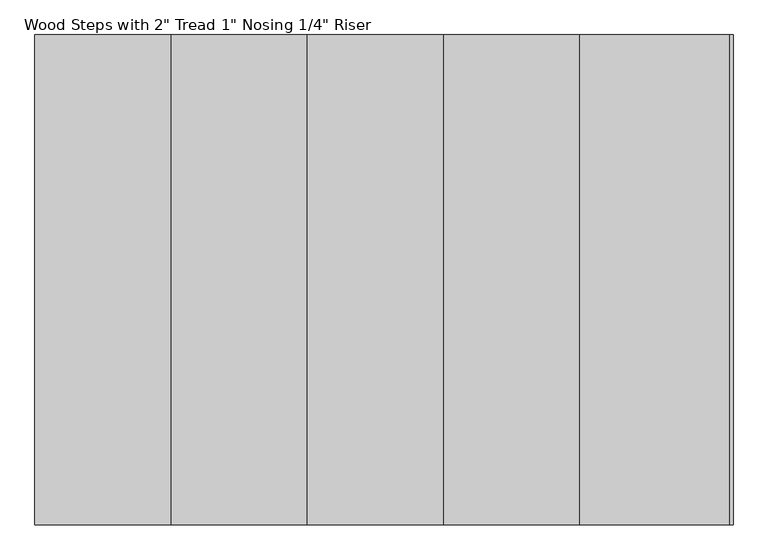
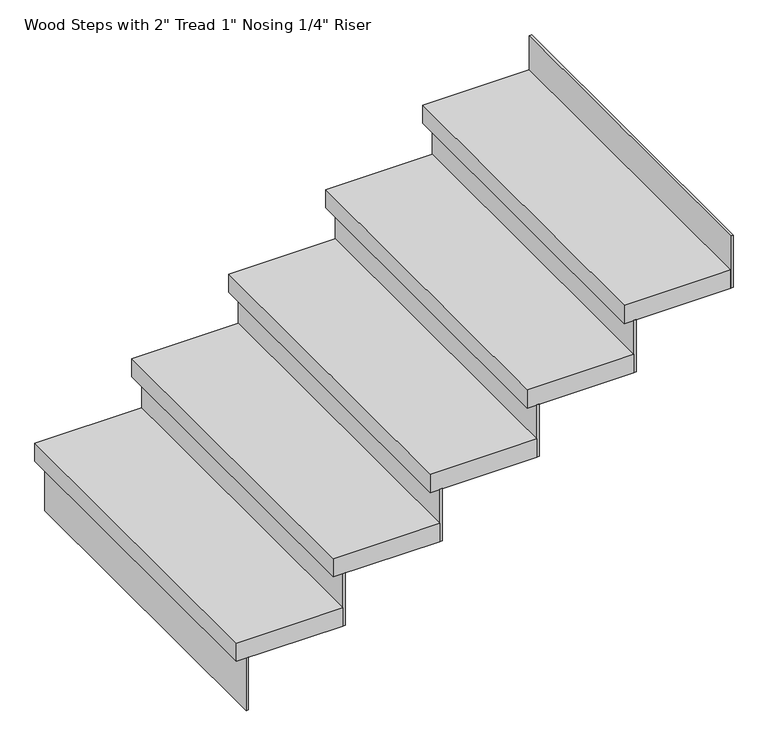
"""IFC4 building model written with IfcOpenShell, lengths in millimetres: stair flight geometry."""

from ifc_helpers import new_model, si_unit, frame, origin, place, context, project, spatial, polyline, outline, extrude, source, transform, mapped, element, save


def stair_flight_e9081b82(model_context):
    return source(origin(), model_context, "Body", "SweptSolid", [
        extrude(outline(polyline([(-31217.12137, 23592.4177722), (-31223.47137, 23592.4177722), (-31223.47137, 24506.8177722), (-31217.12137, 24506.8177722), (-31217.12137, 23592.4177722)])), frame((0.0, 0.0, 2126.3428571), z_axis=(0.0, 0.0, 1.0), x_axis=(1.0, 0.0, 0.0)), (0.0, 0.0, 1.0), 145.1428571),
        extrude(outline(polyline([(-30969.47137, 24506.8177722), (-30969.47137, 23592.4177722), (-31248.87137, 23592.4177722), (-31248.87137, 24506.8177722), (-30969.47137, 24506.8177722)])), frame((0.0, 0.0, 2271.4857143), z_axis=(0.0, 0.0, 1.0), x_axis=(1.0, 0.0, 0.0)), (0.0, 0.0, 1.0), 50.8),
        extrude(outline(polyline([(-30963.12137, 23592.4177722), (-30969.47137, 23592.4177722), (-30969.47137, 24506.8177722), (-30963.12137, 24506.8177722), (-30963.12137, 23592.4177722)])), frame((0.0, 0.0, 2271.4857143), z_axis=(0.0, 0.0, 1.0), x_axis=(1.0, 0.0, 0.0)), (0.0, 0.0, 1.0), 145.1428571),
        extrude(outline(polyline([(-30715.47137, 24506.8177722), (-30715.47137, 23592.4177722), (-30994.87137, 23592.4177722), (-30994.87137, 24506.8177722), (-30715.47137, 24506.8177722)])), frame((0.0, 0.0, 2416.6285714), z_axis=(0.0, 0.0, 1.0), x_axis=(1.0, 0.0, 0.0)), (0.0, 0.0, 1.0), 50.8),
        extrude(outline(polyline([(-30709.12137, 23592.4177722), (-30715.47137, 23592.4177722), (-30715.47137, 24506.8177722), (-30709.12137, 24506.8177722), (-30709.12137, 23592.4177722)])), frame((0.0, 0.0, 2416.6285714), z_axis=(0.0, 0.0, 1.0), x_axis=(1.0, 0.0, 0.0)), (0.0, 0.0, 1.0), 145.1428571),
        extrude(outline(polyline([(-30461.47137, 24506.8177722), (-30461.47137, 23592.4177722), (-30740.87137, 23592.4177722), (-30740.87137, 24506.8177722), (-30461.47137, 24506.8177722)])), frame((0.0, 0.0, 2561.7714286), z_axis=(0.0, 0.0, 1.0), x_axis=(1.0, 0.0, 0.0)), (0.0, 0.0, 1.0), 50.8),
        extrude(outline(polyline([(-30455.12137, 23592.4177722), (-30461.47137, 23592.4177722), (-30461.47137, 24506.8177722), (-30455.12137, 24506.8177722), (-30455.12137, 23592.4177722)])), frame((0.0, 0.0, 2561.7714286), z_axis=(0.0, 0.0, 1.0), x_axis=(1.0, 0.0, 0.0)), (0.0, 0.0, 1.0), 145.1428571),
        extrude(outline(polyline([(-30207.47137, 24506.8177722), (-30207.47137, 23592.4177722), (-30486.87137, 23592.4177722), (-30486.87137, 24506.8177722), (-30207.47137, 24506.8177722)])), frame((0.0, 0.0, 2706.9142857), z_axis=(0.0, 0.0, 1.0), x_axis=(1.0, 0.0, 0.0)), (0.0, 0.0, 1.0), 50.8),
        extrude(outline(polyline([(-30201.12137, 23592.4177722), (-30207.47137, 23592.4177722), (-30207.47137, 24506.8177722), (-30201.12137, 24506.8177722), (-30201.12137, 23592.4177722)])), frame((0.0, 0.0, 2706.9142857), z_axis=(0.0, 0.0, 1.0), x_axis=(1.0, 0.0, 0.0)), (0.0, 0.0, 1.0), 145.1428571),
        extrude(outline(polyline([(-29947.12137, 23592.4177722), (-29953.47137, 23592.4177722), (-29953.47137, 24506.8177722), (-29947.12137, 24506.8177722), (-29947.12137, 23592.4177722)])), frame((0.0, 0.0, 2852.0571429), z_axis=(0.0, 0.0, 1.0), x_axis=(1.0, 0.0, 0.0)), (0.0, 0.0, 1.0), 145.1428571),
        extrude(outline(polyline([(-29953.47137, 24506.8177722), (-29953.47137, 23592.4177722), (-30232.87137, 23592.4177722), (-30232.87137, 24506.8177722), (-29953.47137, 24506.8177722)])), frame((0.0, 0.0, 2852.0571429), z_axis=(0.0, 0.0, 1.0), x_axis=(1.0, 0.0, 0.0)), (0.0, 0.0, 1.0), 50.8),
    ])


if __name__ == "__main__":
    model = new_model("IFC4")
    model_context = context("Model", 3, world=origin())
    ifc_project = project(units=[si_unit("LENGTHUNIT", "METRE", prefix="MILLI")], contexts=[model_context])
    site = spatial("IfcSite", under=ifc_project)
    building = spatial("IfcBuilding", under=site)
    placement = place(None, origin())
    stair_flight_shape = stair_flight_e9081b82(model_context)
    element("IfcStairFlight", 1, ObjectType="Wood Steps with 2\" Tread 1\" Nosing 1/4\" Riser", at=placement, inside=building, context=model_context, shape_type="MappedRepresentation", body=[
        mapped(stair_flight_shape, transform((0.0, 0.0, 0.0), x_axis=(1.0, 0.0, 0.0), y_axis=(0.0, 1.0, 0.0), z_axis=(0.0, 0.0, 1.0))),
    ])
    save(model, "model.ifc")
